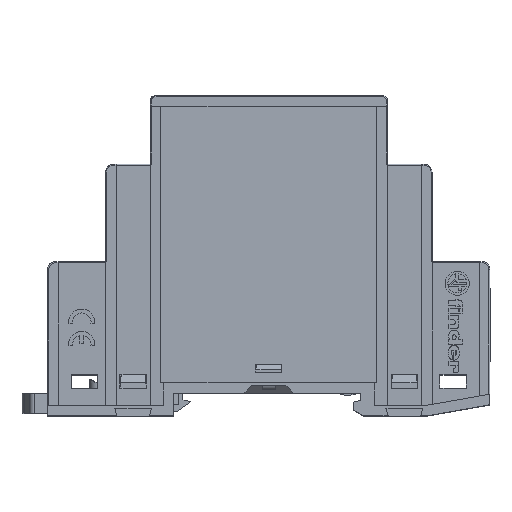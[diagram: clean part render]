
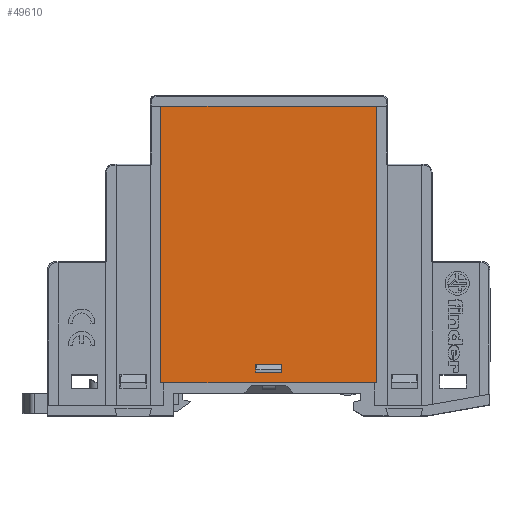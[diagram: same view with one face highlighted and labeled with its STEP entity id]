
A CAD part, top view. The second image highlights one B-rep face of the part: STEP entity #49610.
In plain terms, the highlighted planar face has unit normal (0, 0, 1).
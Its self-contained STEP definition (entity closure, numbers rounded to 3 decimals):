
#12004=ORIENTED_EDGE('',*,*,#20934,.T.);
#12005=ORIENTED_EDGE('',*,*,#20935,.F.);
#12006=ORIENTED_EDGE('',*,*,#20936,.F.);
#12007=ORIENTED_EDGE('',*,*,#20937,.F.);
#12008=ORIENTED_EDGE('',*,*,#20938,.T.);
#12009=ORIENTED_EDGE('',*,*,#20939,.F.);
#12010=ORIENTED_EDGE('',*,*,#20932,.F.);
#12011=ORIENTED_EDGE('',*,*,#20940,.F.);
#20932=EDGE_CURVE('',#27139,#27140,#33713,.T.);
#20934=EDGE_CURVE('',#27141,#27142,#33715,.T.);
#20935=EDGE_CURVE('',#27143,#27142,#33716,.T.);
#20936=EDGE_CURVE('',#27144,#27143,#33717,.T.);
#20937=EDGE_CURVE('',#27141,#27144,#33718,.T.);
#20938=EDGE_CURVE('',#27145,#27146,#33719,.T.);
#20939=EDGE_CURVE('',#27140,#27146,#33720,.T.);
#20940=EDGE_CURVE('',#27145,#27139,#33721,.T.);
#27139=VERTEX_POINT('',#83680);
#27140=VERTEX_POINT('',#83682);
#27141=VERTEX_POINT('',#83686);
#27142=VERTEX_POINT('',#83687);
#27143=VERTEX_POINT('',#83689);
#27144=VERTEX_POINT('',#83691);
#27145=VERTEX_POINT('',#83694);
#27146=VERTEX_POINT('',#83695);
#33713=LINE('',#83681,#40561);
#33715=LINE('',#83685,#40563);
#33716=LINE('',#83688,#40564);
#33717=LINE('',#83690,#40565);
#33718=LINE('',#83692,#40566);
#33719=LINE('',#83693,#40567);
#33720=LINE('',#83696,#40568);
#33721=LINE('',#83697,#40569);
#40561=VECTOR('',#63872,1000.);
#40563=VECTOR('',#63876,1000.);
#40564=VECTOR('',#63877,1000.);
#40565=VECTOR('',#63878,1000.);
#40566=VECTOR('',#63879,1000.);
#40567=VECTOR('',#63880,1000.);
#40568=VECTOR('',#63881,1000.);
#40569=VECTOR('',#63882,1000.);
#43300=EDGE_LOOP('',(#12004,#12005,#12006,#12007));
#43301=EDGE_LOOP('',(#12008,#12009,#12010,#12011));
#45587=FACE_BOUND('',#43300,.T.);
#45588=FACE_BOUND('',#43301,.T.);
#47547=PLANE('',#52924);
#49610=ADVANCED_FACE('',(#45587,#45588),#47547,.T.);
#52924=AXIS2_PLACEMENT_3D('',#83684,#63874,#63875);
#63872=DIRECTION('',(0.,-1.,0.));
#63874=DIRECTION('',(0.,0.,1.));
#63875=DIRECTION('',(0.,1.,0.));
#63876=DIRECTION('',(0.,-1.,0.));
#63877=DIRECTION('',(1.,0.,0.));
#63878=DIRECTION('',(0.,-1.,0.));
#63879=DIRECTION('',(-1.,0.,0.));
#63880=DIRECTION('',(0.,-1.,0.));
#63881=DIRECTION('',(-1.,0.,0.));
#63882=DIRECTION('',(1.,0.,0.));
#83680=CARTESIAN_POINT('',(20.5,5.5,40.));
#83681=CARTESIAN_POINT('',(20.5,5.5,40.));
#83682=CARTESIAN_POINT('',(20.5,-47.,40.));
#83684=CARTESIAN_POINT('',(-20.501,-47.001,40.));
#83685=CARTESIAN_POINT('',(2.5,-43.5,40.));
#83686=CARTESIAN_POINT('',(2.5,-43.5,40.));
#83687=CARTESIAN_POINT('',(2.5,-45.,40.));
#83688=CARTESIAN_POINT('',(-2.5,-45.,40.));
#83689=CARTESIAN_POINT('',(-2.5,-45.,40.));
#83690=CARTESIAN_POINT('',(-2.5,-43.5,40.));
#83691=CARTESIAN_POINT('',(-2.5,-43.5,40.));
#83692=CARTESIAN_POINT('',(2.5,-43.5,40.));
#83693=CARTESIAN_POINT('',(-20.5,5.5,40.));
#83694=CARTESIAN_POINT('',(-20.5,5.5,40.));
#83695=CARTESIAN_POINT('',(-20.5,-47.,40.));
#83696=CARTESIAN_POINT('',(20.5,-47.,40.));
#83697=CARTESIAN_POINT('',(-20.5,5.5,40.));
